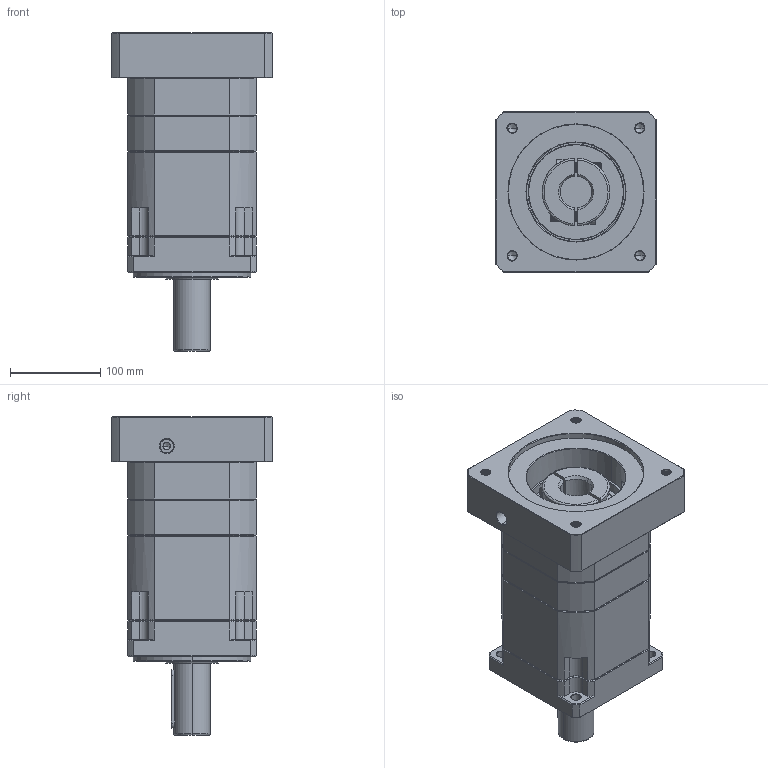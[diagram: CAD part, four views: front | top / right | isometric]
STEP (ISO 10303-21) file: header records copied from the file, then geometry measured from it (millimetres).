
FILE_DESCRIPTION (( 'STEP AP214' ), '1' );
FILE_NAME ('ZB142A-D40-L3-P2-35-150-200-M12.step', '2023-09-01T11:44:45', ( '' ), ( '' ), 'SwSTEP 2.0', 'SolidWorks 2016', '' );
FILE_SCHEMA (( 'AUTOMOTIVE_DESIGN' ));
Length unit declared in the file: millimetre
Products named in the file (1): ZB142A-D40-L3-P2-35-150-200-M12
Bounding box: 178 x 178 x 353.2 mm (x, y, z)
Volume: 5266658.6 mm3; surface area: 358802 mm2
Topology: 6 solids, 6 shells, 2326 faces, 6216 edges, 3994 vertices
Faces by surface type: plane 1115, cylinder 418, bspline 411, cone 360, torus 22
Entity records: 130441 total; most frequent: CARTESIAN_POINT 50039, ORIENTED_EDGE 12372, DIRECTION 9852, EDGE_CURVE 6186, VERTEX_POINT 3994, VECTOR 3908, LINE 3908, AXIS2_PLACEMENT_3D 2972
